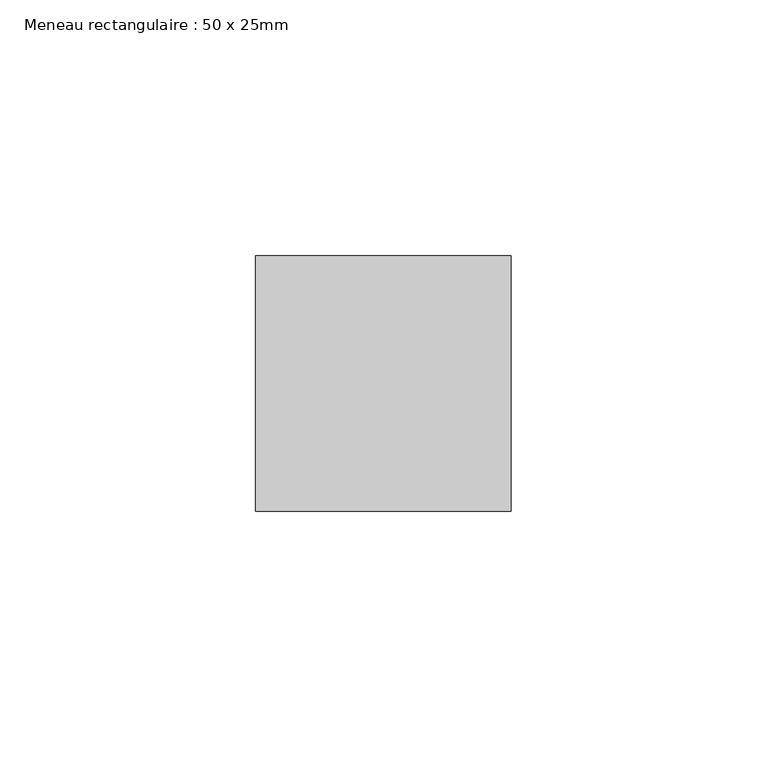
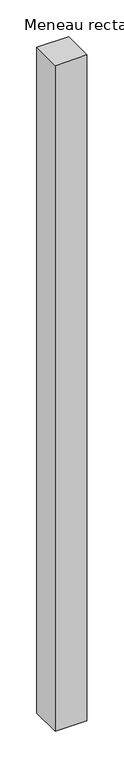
"""IFC4 building model written with IfcOpenShell, lengths in millimetres: member geometry, Meneau rectangulaire : 50 x 25mm."""

import ifcopenshell
import ifcopenshell.guid

model = None  # the IFC model being written
_history = None  # IfcOwnerHistory: only IFC2X3 demands one
_inside = {}  # id of a spatial element -> (the spatial element, [elements in it])
_under = {}  # id of a project, library or spatial element -> (it, [spatial elements below it])
_declared = {}  # id of a project -> (the project, [libraries it declares])
_typed = {}  # id of a type object -> (the type object, [elements of that type])
_made_of = {}  # id of a material, layer set ... -> (it, [elements and type objects made of it])


def new_model(schema):
    """Start an empty IFC model of exactly this schema.

    Asked for "IFC4X3", IfcOpenShell would pick the latest addendum, in which some entities
    have other attributes; the version numbers below select the first issue.
    IFC2X3 requires an IfcOwnerHistory on every rooted entity: one is made here for all.
    """
    global model, _history
    if schema == "IFC4X3":
        model = ifcopenshell.file(schema_version=(4, 3, 0, 0))
    else:
        model = ifcopenshell.file(schema=schema)
    _inside.clear()
    _under.clear()
    _declared.clear()
    _typed.clear()
    _made_of.clear()
    _history = None
    if model.schema == "IFC2X3":
        org = make("IfcOrganization", Name="unknown")
        user = make(
            "IfcPersonAndOrganization",
            ThePerson=make("IfcPerson", FamilyName="unknown"),
            TheOrganization=org,
        )
        app = make(
            "IfcApplication",
            ApplicationDeveloper=org,
            Version="unknown",
            ApplicationFullName="unknown",
            ApplicationIdentifier="unknown",
        )
        _history = make(
            "IfcOwnerHistory",
            OwningUser=user,
            OwningApplication=app,
            ChangeAction="ADDED",
            CreationDate=0,
        )
    return model


def make(cls, **values):
    """One entity of the class cls with the attributes given. An attribute that is None is left unset."""
    return model.create_entity(
        cls, **{name: value for name, value in values.items() if value is not None}
    )


def rooted(cls, **values):
    """An entity with a GlobalId (a new one), such as an element, a storey or a relation."""
    return make(cls, GlobalId=ifcopenshell.guid.new(), OwnerHistory=_history, **values)


def si_unit(unit_type, name, prefix=None):
    """IfcSIUnit, for example si_unit("LENGTHUNIT", "METRE", prefix="MILLI")."""
    return make("IfcSIUnit", UnitType=unit_type, Prefix=prefix, Name=name)


def assignment(units):
    """IfcUnitAssignment: the units of a project."""
    return None if units is None else make("IfcUnitAssignment", Units=units)


def point(xyz):
    """IfcCartesianPoint."""
    return None if xyz is None else make("IfcCartesianPoint", Coordinates=xyz)


def direction(xyz):
    """IfcDirection."""
    return None if xyz is None else make("IfcDirection", DirectionRatios=xyz)


def frame(location, z_axis=None, x_axis=None):
    """IfcAxis2Placement3D, a coordinate frame: its origin and axes. An axis left out is left unset."""
    return make(
        "IfcAxis2Placement3D",
        Location=point(location),
        Axis=direction(z_axis),
        RefDirection=direction(x_axis),
    )


def origin():
    """The frame at (0, 0, 0) with its axes left unset."""
    return frame((0.0, 0.0, 0.0))


def place(relative_to, where):
    """IfcLocalPlacement: puts the frame where relative to a parent placement (None: the world)."""
    return make(
        "IfcLocalPlacement", PlacementRelTo=relative_to, RelativePlacement=where
    )


def context(
    kind, dimensions, precision=None, world=None, true_north=None, identifier=None
):
    """IfcGeometricRepresentationContext, for example the 3D "Model" context."""
    return make(
        "IfcGeometricRepresentationContext",
        ContextIdentifier=identifier,
        ContextType=kind,
        CoordinateSpaceDimension=dimensions,
        Precision=precision,
        WorldCoordinateSystem=world,
        TrueNorth=true_north,
    )


def project(units=None, contexts=None):
    """IfcProject with its units and contexts."""
    return rooted(
        "IfcProject",
        Name="project",
        RepresentationContexts=contexts,
        UnitsInContext=assignment(units),
    )


def spatial(cls, under=None, at=None, **own):
    """A site, building, storey or space (cls), placed at a placement, below another one or the project."""
    s = rooted(cls, ObjectPlacement=at, **own)
    if under is not None:
        _under.setdefault(under.id(), (under, []))[1].append(s)
    return s


def polyline(points):
    """IfcPolyline through the points."""
    return make("IfcPolyline", Points=[point(p) for p in points])


def outline(outer, holes=None, kind="AREA"):
    """IfcArbitraryClosedProfileDef: a profile drawn as a closed curve; with holes, ...WithVoids."""
    if holes is None:
        return make("IfcArbitraryClosedProfileDef", ProfileType=kind, OuterCurve=outer)
    return make(
        "IfcArbitraryProfileDefWithVoids",
        ProfileType=kind,
        OuterCurve=outer,
        InnerCurves=holes,
    )


def extrude(swept, where, along, depth):
    """IfcExtrudedAreaSolid: the profile swept, set in the frame where, extruded along a direction by depth."""
    return make(
        "IfcExtrudedAreaSolid",
        SweptArea=swept,
        Position=where,
        ExtrudedDirection=direction(along),
        Depth=depth,
    )


def shape(context_of_items, identifier, shape_type, items):
    """IfcShapeRepresentation: the items that make up one representation, for example the "Body"."""
    return make(
        "IfcShapeRepresentation",
        ContextOfItems=context_of_items,
        RepresentationIdentifier=identifier,
        RepresentationType=shape_type,
        Items=items,
    )


def source(mapping_origin, context_of_items, identifier, shape_type, items):
    """IfcRepresentationMap: a shape defined once, which mapped items show again and again."""
    return make(
        "IfcRepresentationMap",
        MappingOrigin=mapping_origin,
        MappedRepresentation=shape(context_of_items, identifier, shape_type, items),
    )


def transform(
    local_origin,
    x_axis=None,
    y_axis=None,
    z_axis=None,
    scale=None,
    scale2=None,
    scale3=None,
    uniform=True,
):
    """IfcCartesianTransformationOperator3D, or its non-uniform kind. x_axis, y_axis, z_axis: its Axis1, 2, 3."""
    if uniform:
        return make(
            "IfcCartesianTransformationOperator3D",
            Axis1=direction(x_axis),
            Axis2=direction(y_axis),
            LocalOrigin=point(local_origin),
            Scale=scale,
            Axis3=direction(z_axis),
        )
    return make(
        "IfcCartesianTransformationOperator3DnonUniform",
        Axis1=direction(x_axis),
        Axis2=direction(y_axis),
        LocalOrigin=point(local_origin),
        Scale=scale,
        Axis3=direction(z_axis),
        Scale2=scale2,
        Scale3=scale3,
    )


def mapped(mapping_source, mapping_target):
    """IfcMappedItem: shows the shape of a source again, moved by a transform."""
    return make(
        "IfcMappedItem", MappingSource=mapping_source, MappingTarget=mapping_target
    )


def made_of(thing, what):
    """Note that an element or type object is made of a material, layer set ...; save() writes the relation."""
    if what is not None:
        _made_of.setdefault(what.id(), (what, []))[1].append(thing)
    return thing


def element(
    cls,
    number,
    at=None,
    inside=None,
    cuts=None,
    type_object=None,
    material=None,
    context=None,
    identifier="Body",
    shape_type=None,
    held_by="IfcProductDefinitionShape",
    body=None,
    shapes=None,
    **own,
):
    """One element of the class cls, such as IfcWall. Its Tag is "e" and its number.

    at: its placement. inside: the storey or other place that contains it. cuts: it is an
    opening in that element (IfcRelVoidsElement). A single representation is given by context,
    identifier, shape_type and body (its items); several are given by shapes. held_by: the class
    of the entity that holds the representations. save() writes the other relations.
    """
    e = rooted(cls, Tag="e%d" % number, ObjectPlacement=at, **own)
    if body is not None:
        shapes = [shape(context, identifier, shape_type, body)]
    if shapes is not None:
        e.Representation = make(held_by, Representations=shapes)
    if inside is not None:
        _inside.setdefault(inside.id(), (inside, []))[1].append(e)
    if cuts is not None:
        rooted(
            "IfcRelVoidsElement", RelatingBuildingElement=cuts, RelatedOpeningElement=e
        )
    if type_object is not None:
        _typed.setdefault(type_object.id(), (type_object, []))[1].append(e)
    return made_of(e, material)


def aggregate(whole, parts):
    """IfcRelAggregates: a whole, such as a stair, and the parts it consists of."""
    return rooted("IfcRelAggregates", RelatingObject=whole, RelatedObjects=parts)


def save(model, path):
    """Write the relations noted so far, then the file.

    IfcRelAggregates (storeys below a building ...), IfcRelContainedInSpatialStructure (elements
    in a storey), IfcRelDefinesByType, IfcRelAssociatesMaterial and IfcRelDeclares: one each for
    every whole, place, type object, material and project.
    """
    for whole, parts in _under.values():
        aggregate(whole, parts)
    for where, things in _inside.values():
        rooted(
            "IfcRelContainedInSpatialStructure",
            RelatedElements=things,
            RelatingStructure=where,
        )
    for kind, things in _typed.values():
        rooted("IfcRelDefinesByType", RelatedObjects=things, RelatingType=kind)
    for what, things in _made_of.values():
        rooted("IfcRelAssociatesMaterial", RelatedObjects=things, RelatingMaterial=what)
    for by, libraries in _declared.values():
        rooted("IfcRelDeclares", RelatingContext=by, RelatedDefinitions=libraries)
    model.write(path)


def meneau_rectangulaire_50_x_25mm_3444f111(model_context):
    return source(origin(), model_context, "Body", "SweptSolid", [
        extrude(outline(polyline([(0.0, 0.0), (0.0, -50.0), (-50.0, -50.0), (-50.0, 0.0), (0.0, 0.0)])), frame((0.0, 0.0, -1106.0), z_axis=(0.0, 0.0, 1.0), x_axis=(1.0, 0.0, 0.0)), (0.0, 0.0, 1.0), 1106.0),
    ])


if __name__ == "__main__":
    model = new_model("IFC4")
    model_context = context("Model", 3, world=origin())
    ifc_project = project(units=[si_unit("LENGTHUNIT", "METRE", prefix="MILLI")], contexts=[model_context])
    site = spatial("IfcSite", under=ifc_project)
    building = spatial("IfcBuilding", under=site)
    placement = place(None, origin())
    meneau_rectangulaire_50_x_25mm_shape = meneau_rectangulaire_50_x_25mm_3444f111(model_context)
    element("IfcMember", 1, ObjectType="Meneau rectangulaire : 50 x 25mm", at=placement, inside=building, context=model_context, shape_type="MappedRepresentation", body=[
        mapped(meneau_rectangulaire_50_x_25mm_shape, transform((0.0, 0.0, 0.0), x_axis=(1.0, 0.0, 0.0), y_axis=(0.0, 1.0, 0.0), z_axis=(0.0, 0.0, 1.0))),
    ])
    save(model, "model.ifc")
